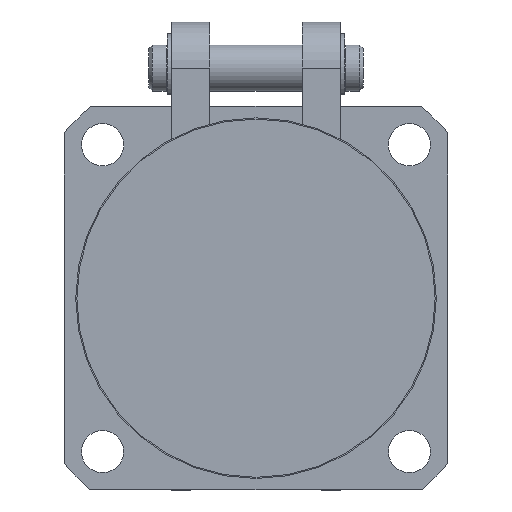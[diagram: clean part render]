
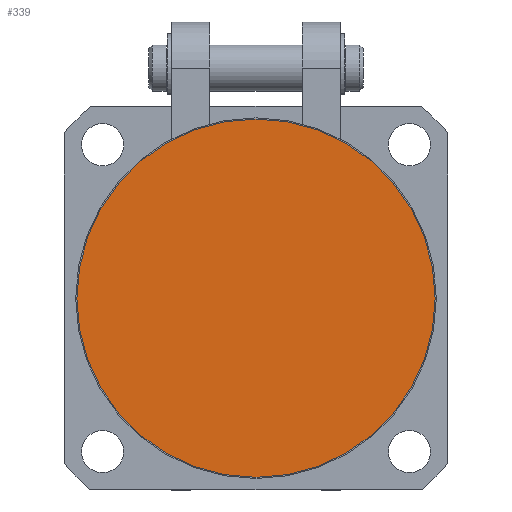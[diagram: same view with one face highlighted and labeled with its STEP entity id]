
A CAD part, front view. The second image highlights one B-rep face of the part: STEP entity #339.
In plain terms, the highlighted planar face has unit normal (0, -1, 0).
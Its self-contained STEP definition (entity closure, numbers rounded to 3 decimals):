
#339 = ADVANCED_FACE( '', ( #699 ), #700, .T. );
#699 = FACE_OUTER_BOUND( '', #1301, .T. );
#700 = PLANE( '', #1302 );
#1301 = EDGE_LOOP( '', ( #2218 ) );
#1302 = AXIS2_PLACEMENT_3D( '', #2219, #2220, #2221 );
#2218 = ORIENTED_EDGE( '', *, *, #3805, .T. );
#2219 = CARTESIAN_POINT( '', ( 0., -47.5, 0. ) );
#2220 = DIRECTION( '', ( 0., -1., 0. ) );
#2221 = DIRECTION( '', ( 1., 0., 0. ) );
#3805 = EDGE_CURVE( '', #4506, #4506, #4507, .T. );
#4506 = VERTEX_POINT( '', #5684 );
#4507 = CIRCLE( '', #5685, 23.35 );
#5684 = CARTESIAN_POINT( '', ( -23.35, -47.5, 0. ) );
#5685 = AXIS2_PLACEMENT_3D( '', #6927, #6928, #6929 );
#6927 = CARTESIAN_POINT( '', ( 0., -47.5, 0. ) );
#6928 = DIRECTION( '', ( 0., -1., 0. ) );
#6929 = DIRECTION( '', ( -1., 0., 0. ) );
